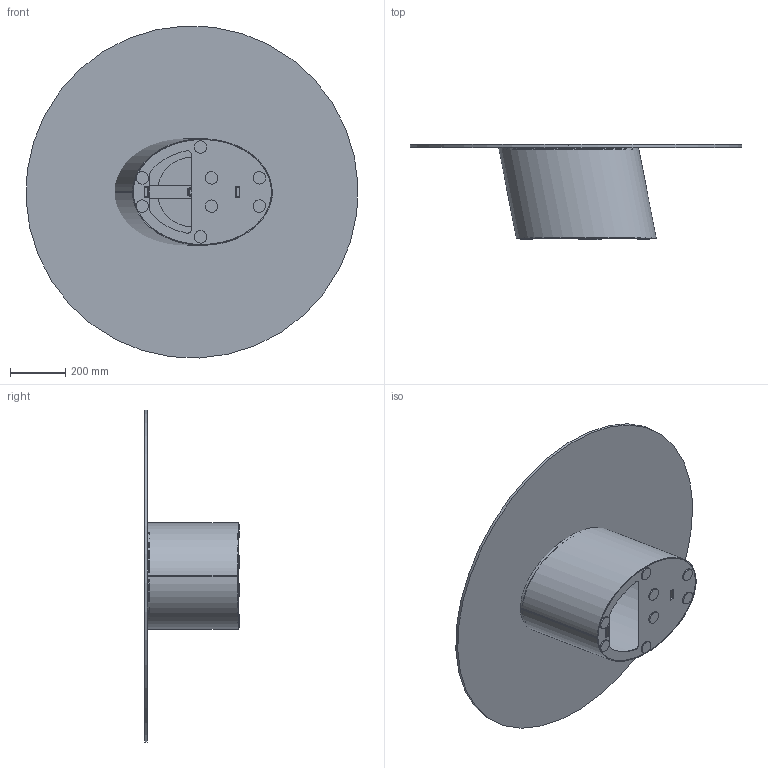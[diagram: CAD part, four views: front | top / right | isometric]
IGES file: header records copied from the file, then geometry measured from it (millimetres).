
Start section: SolidWorks IGES file using analytic representation for surfaces
Global section: file name: Y:\eforma\TECNICO\SOLIDWORKS\E-FORMA\2-TAVOLINI\DORADO LOW\02 parts\D114G.IGS; native system: SolidWorks 2022; preprocessor: SolidWorks 2022; author: eforma.tech; date: 240807.132124; units: millimetre
Bounding box: 1198.81 x 343 x 1198.81 mm (x, y, z)
Volume: 13539003.7 mm3; surface area: 3860567.7 mm2
Topology: 17 solids, 17 shells, 179 faces, 433 edges, 288 vertices
Faces by surface type: plane 84, revolution 81, bspline 14
